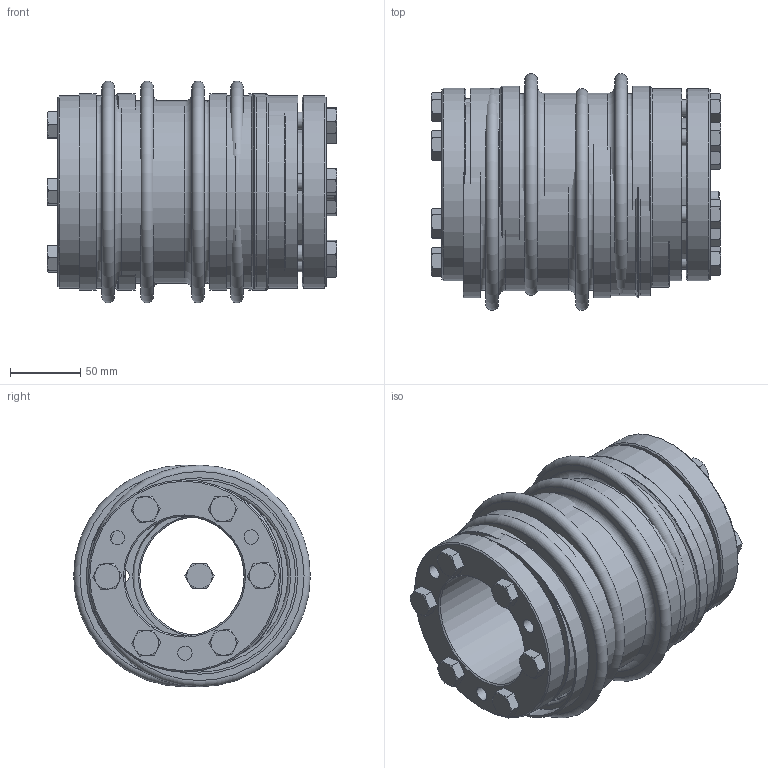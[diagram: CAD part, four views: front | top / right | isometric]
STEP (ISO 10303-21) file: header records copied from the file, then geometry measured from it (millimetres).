
FILE_DESCRIPTION( ( 'Unknown' ), '1' );
FILE_NAME( 'C:/Dokumente und Einstellungen/SKarpstein/Desktop/KB5-3000.stp', 'Unknown', ( 'Unknown' ), ( 'Unknown' ), 'XStep 1.0', 'Unknown', ' ' );
FILE_SCHEMA( ( 'automotive_design' ) );
Length unit declared in the file: millimetre
Products named in the file (5): Assem1; Hex Screw GradeC_DIN_ISO 4018 - M12 x 65-NN_1; balg_Standard_1; KB3000 - 2_Standard_1; BA3000 - 2_Standard_1
Bounding box: 206 x 168.63 x 158 mm (x, y, z)
Volume: 1817613.1 mm3; surface area: 656489.3 mm2
Topology: 21 solids, 21 shells, 413 faces, 872 edges, 547 vertices
Faces by surface type: plane 166, cone 121, cylinder 95, torus 31
Full cylindrical faces by diameter (mm): 10.2 x27, 12 x13, 13 x18, 85 x3, 95 x3, 125 x3, 126 x4, 127 x2, 130 x2, 137 x13, 140 x7
Entity records: 2662 total; most frequent: DIRECTION 434, CARTESIAN_POINT 407, ORIENTED_EDGE 248, AXIS2_PLACEMENT_3D 211, EDGE_LOOP 202, FACE_OUTER_BOUND 139, EDGE_CURVE 124, VERTEX_POINT 112
